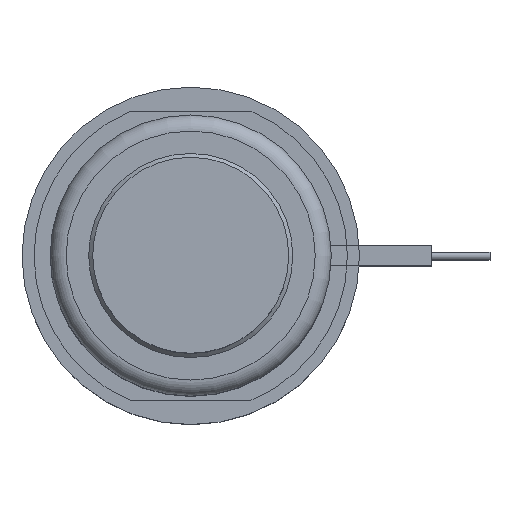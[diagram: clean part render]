
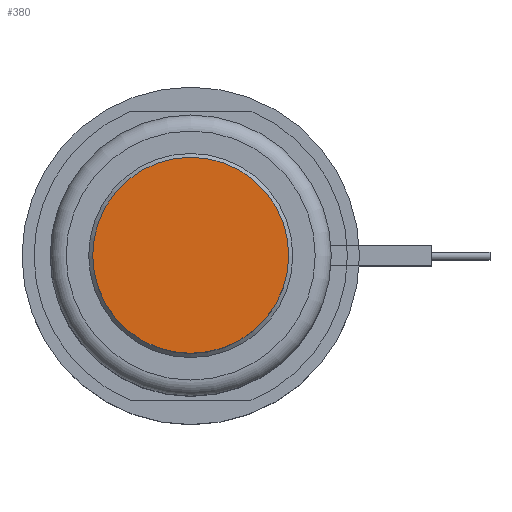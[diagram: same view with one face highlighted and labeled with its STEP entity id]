
A CAD part, top view. The second image highlights one B-rep face of the part: STEP entity #380.
In plain terms, the highlighted planar face has unit normal (0, 0, 1).
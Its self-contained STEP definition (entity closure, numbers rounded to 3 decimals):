
#286=CIRCLE('',#1380,12.2);
#380=ADVANCED_FACE('',(#498),#439,.F.);
#439=PLANE('',#1381);
#498=FACE_OUTER_BOUND('',#612,.T.);
#612=EDGE_LOOP('',(#860));
#860=ORIENTED_EDGE('',*,*,#1132,.F.);
#1002=VERTEX_POINT('',#2156);
#1132=EDGE_CURVE('',#1002,#1002,#286,.T.);
#1380=AXIS2_PLACEMENT_3D('',#2155,#1701,#1702);
#1381=AXIS2_PLACEMENT_3D('',#2157,#1703,#1704);
#1701=DIRECTION('',(0.,0.,-1.));
#1702=DIRECTION('',(-1.,0.,0.));
#1703=DIRECTION('',(0.,0.,-1.));
#1704=DIRECTION('',(-1.,0.,0.));
#2155=CARTESIAN_POINT('',(0.,0.,18.));
#2156=CARTESIAN_POINT('',(-12.2,0.,18.));
#2157=CARTESIAN_POINT('',(0.,0.,18.));
